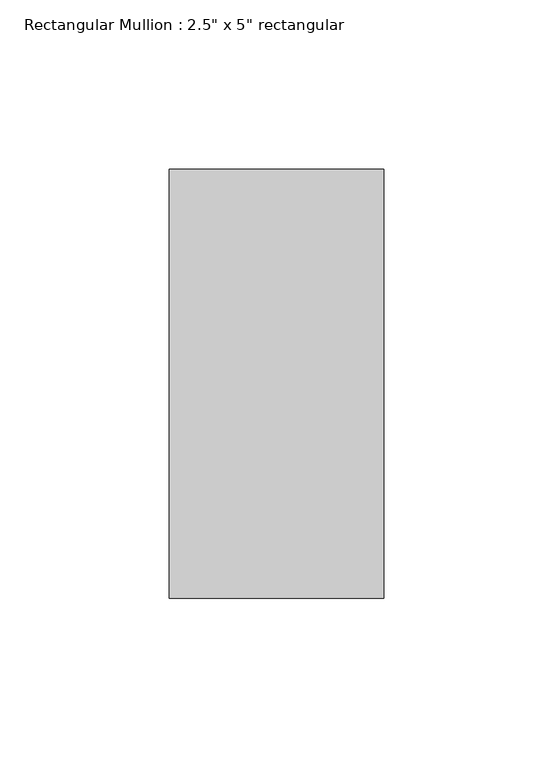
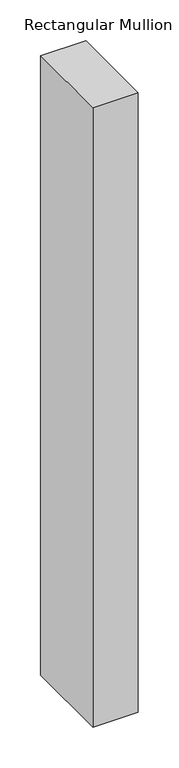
"""IFC4 building model written with IfcOpenShell, lengths in millimetres: member geometry."""

from ifc_helpers import new_model, si_unit, frame, origin, place, context, project, spatial, polyline, outline, extrude, source, transform, mapped, element, save


def member_17d0eb69(model_context):
    return source(origin(), model_context, "Body", "SweptSolid", [
        extrude(outline(polyline([(0.0, 50.8), (0.0, -76.2), (-63.5, -76.2), (-63.5, 50.8), (0.0, 50.8)])), frame((0.0, 0.0, -922.5211036), z_axis=(0.0, 0.0, 1.0), x_axis=(1.0, 0.0, 0.0)), (0.0, 0.0, 1.0), 922.5211036),
    ])


if __name__ == "__main__":
    model = new_model("IFC4")
    model_context = context("Model", 3, world=origin())
    ifc_project = project(units=[si_unit("LENGTHUNIT", "METRE", prefix="MILLI")], contexts=[model_context])
    site = spatial("IfcSite", under=ifc_project)
    building = spatial("IfcBuilding", under=site)
    placement = place(None, origin())
    member_shape = member_17d0eb69(model_context)
    element("IfcMember", 1, ObjectType="Rectangular Mullion : 2.5\" x 5\" rectangular", at=placement, inside=building, context=model_context, shape_type="MappedRepresentation", body=[
        mapped(member_shape, transform((0.0, 0.0, 0.0), x_axis=(1.0, 0.0, 0.0), y_axis=(0.0, 1.0, 0.0), z_axis=(0.0, 0.0, 1.0))),
    ])
    save(model, "model.ifc")
